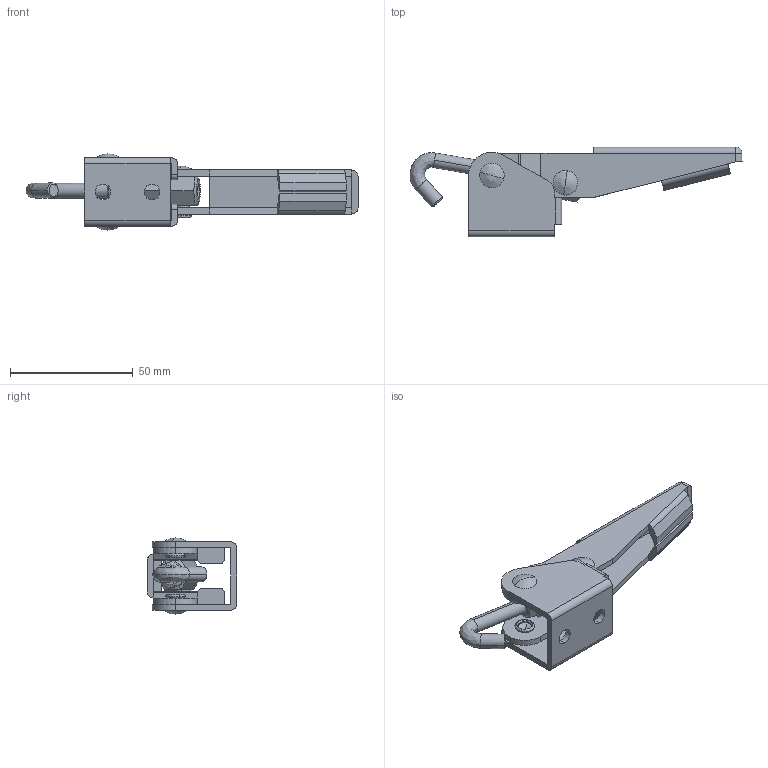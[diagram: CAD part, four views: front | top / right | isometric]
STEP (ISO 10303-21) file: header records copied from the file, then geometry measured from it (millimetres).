
FILE_DESCRIPTION (( 'STEP AP214' ), '1' );
FILE_NAME ('DST-43110.STEP', '2022-11-08T14:33:25', ( '' ), ( '' ), 'SwSTEP 2.0', 'SolidWorks 2015', '' );
FILE_SCHEMA (( 'AUTOMOTIVE_DESIGN' ));
Length unit declared in the file: millimetre
Products named in the file (8): DST-M6 Nut; DST-43110-06; DST-43110; DST-43110-01 BASE; DST-43110-02 HOOK; DST-43110-05; DST-43110-04; DST-43110-03 HANDLE
Assembly tree (8 placements, depth 2):
  DST-43110
    DST-43110-01 BASE
    DST-43110-03 HANDLE
    DST-43110-04
    DST-43110-06
    DST-43110-05  x2
    DST-43110-02 HOOK
    DST-M6 Nut
Bounding box: 135.4 x 36.55 x 31 mm (x, y, z)
Volume: 24521.2 mm3; surface area: 22623.5 mm2
Topology: 8 solids, 8 shells, 326 faces, 879 edges, 561 vertices
Faces by surface type: cylinder 168, plane 90, bspline 34, cone 34
Entity records: 14923 total; most frequent: CARTESIAN_POINT 7526, ORIENTED_EDGE 1670, DIRECTION 1303, EDGE_CURVE 835, VERTEX_POINT 543, AXIS2_PLACEMENT_3D 472, LINE 359, VECTOR 359
